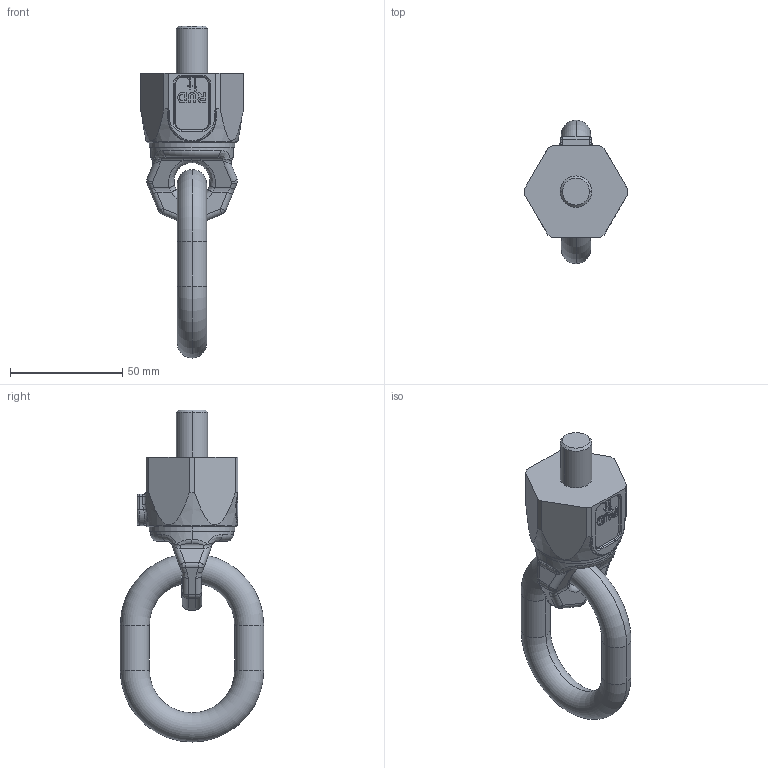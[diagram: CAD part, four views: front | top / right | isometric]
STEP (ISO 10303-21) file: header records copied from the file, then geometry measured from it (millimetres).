
FILE_DESCRIPTION((''),'2;1');
FILE_NAME('001-M32371-P-10_ASM','2018-05-09T',('Anja.Joas'),(''),'PRO/ENGINEER BY PARAMETRIC TECHNOLOGY CORPORATION, 2011490','PRO/ENGINEER BY PARAMETRIC TECHNOLOGY CORPORATION, 2011490','');
FILE_SCHEMA(('CONFIG_CONTROL_DESIGN'));
Length unit declared in the file: millimetre
Products named in the file (5): 001-M31523-P-60_AF0; 001-M31527-P-2; 001-M09397-P-40_AF0; 001-M09397-P-3; 001-M32371-P-10_ASM
Assembly tree (4 placements, depth 2):
  001-M32371-P-10_ASM
    001-M31523-P-60_AF0
    001-M31527-P-2
    001-M09397-P-40_AF0
    001-M09397-P-3
Bounding box: 46 x 64 x 148 mm (x, y, z)
Volume: 89626.2 mm3; surface area: 23702.1 mm2
Topology: 4 solids, 4 shells, 612 faces, 1628 edges, 1047 vertices
Faces by surface type: plane 441, cylinder 75, bspline 59, torus 29, cone 5, sphere 2, extrusion 1
Entity records: 21981 total; most frequent: CARTESIAN_POINT 6976, ORIENTED_EDGE 3256, DIRECTION 2834, EDGE_CURVE 1628, VECTOR 1276, LINE 1275, VERTEX_POINT 1047, AXIS2_PLACEMENT_3D 779
